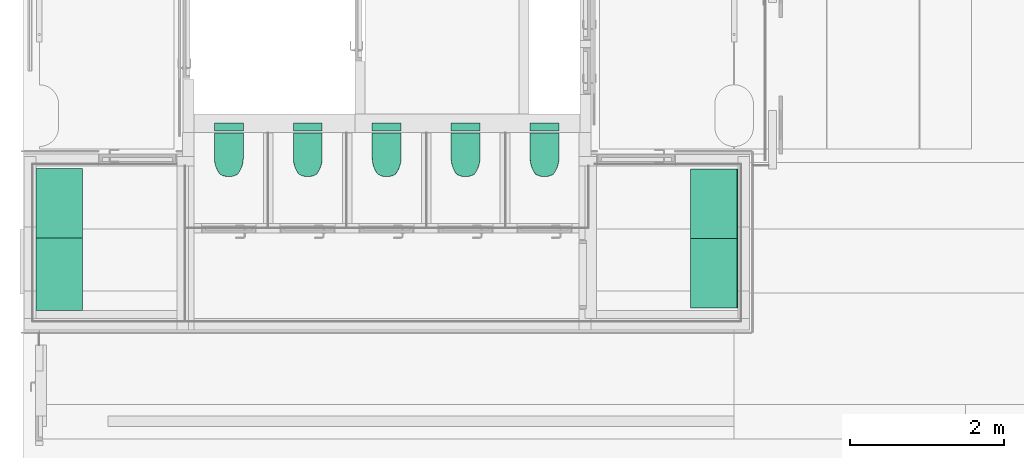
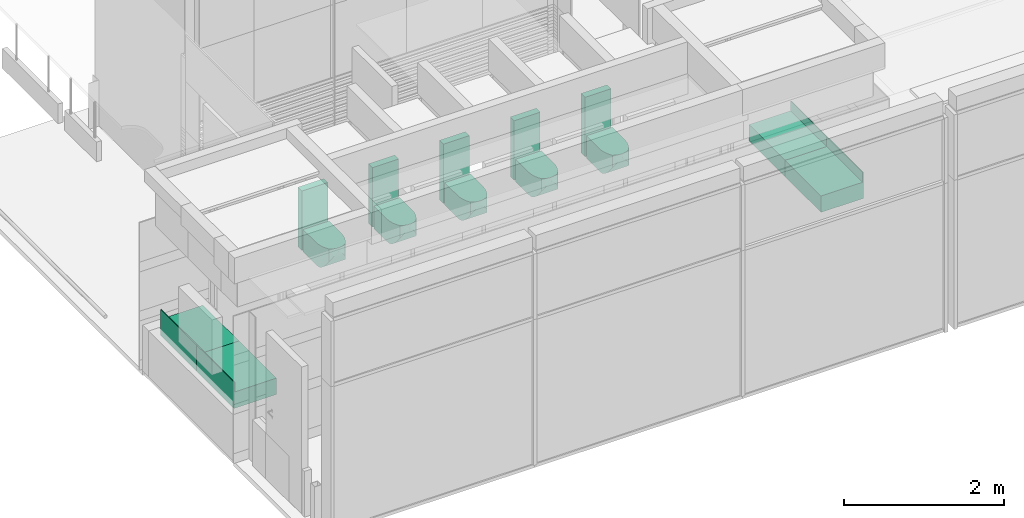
# One storey, part 23 of 26: 9 flow terminals.
"""IFC2X3 building model written with IfcOpenShell, lengths in millimetres."""

from ifc_helpers import new_model, entity, si_unit, converted_unit, derived_unit, direction, frame, origin, origin_with_axes, place, context, subcontext, project, spatial, polyline, outline, extrude, faceted_brep, source, transform, mapped, material, type_object, element, save


model = new_model("IFC2X3")

# Units and contexts
model_context = context("Model", 3, precision=0.01, world=frame((0.0, 4.29681676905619e-09, 0.0)), true_north=direction((4.01073788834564e-13, 1.0)))
plan_context = context("Plan", 3, precision=0.01, world=frame((0.0, 4.29681676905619e-09, 0.0)), true_north=direction((4.01073788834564e-13, 1.0)))
body_context = subcontext(model_context, "Body", "Model", "MODEL_VIEW")
ifc_project = project(units=[converted_unit("PLANEANGLEUNIT", "DEGREE", entity("IfcPositiveLengthMeasure", 0.0174532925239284), si_unit("PLANEANGLEUNIT", "RADIAN"), dimensions=[0, 0, 0, 0, 0, 0, 0]), si_unit("AREAUNIT", "SQUARE_METRE"), si_unit("LENGTHUNIT", "METRE", prefix="MILLI"), si_unit("MASSUNIT", "GRAM", prefix="KILO"), si_unit("POWERUNIT", "WATT"), si_unit("PRESSUREUNIT", "PASCAL", prefix="KILO"), si_unit("FORCEUNIT", "NEWTON", prefix="KILO"), si_unit("ELECTRICVOLTAGEUNIT", "VOLT"), si_unit("ELECTRICCURRENTUNIT", "AMPERE"), si_unit("THERMODYNAMICTEMPERATUREUNIT", "DEGREE_CELSIUS"), si_unit("TIMEUNIT", "SECOND"), si_unit("VOLUMEUNIT", "CUBIC_METRE"), derived_unit("LINEARVELOCITYUNIT", [(si_unit("LENGTHUNIT", "METRE"), 1), (si_unit("TIMEUNIT", "SECOND"), -1)]), derived_unit("VOLUMETRICFLOWRATEUNIT", [(si_unit("VOLUMEUNIT", "CUBIC_METRE"), 1), (si_unit("TIMEUNIT", "SECOND"), -1)]), derived_unit("THERMALTRANSMITTANCEUNIT", [(si_unit("POWERUNIT", "WATT"), 1), (si_unit("THERMODYNAMICTEMPERATUREUNIT", "KELVIN"), -1), (si_unit("AREAUNIT", "SQUARE_METRE"), -1)]), derived_unit("SOUNDPRESSUREUNIT", [(si_unit("PRESSUREUNIT", "PASCAL"), 1)])], contexts=[model_context, plan_context])

# Site, building, storey
site_placement = place(None, origin_with_axes())
site = spatial("IfcSite", under=ifc_project, at=site_placement, Name="ENGM", CompositionType="ELEMENT")
building_placement = place(site_placement, origin_with_axes())
building = spatial("IfcBuilding", under=site, at=building_placement, Name="TG", CompositionType="ELEMENT")
storey_placement = place(building_placement, frame((0.0, 0.0, 210200.0), z_axis=(0.0, 0.0, 1.0), x_axis=(1.0, 0.0, 0.0)))
storey = spatial("IfcBuildingStorey", under=building, at=storey_placement, Name="Nivå F - 0,7 m", CompositionType="ELEMENT", Elevation=210200.0)

# Flow terminals
ifc_material_1 = material(Name="<Unnamed>")
distribution_element_type_1 = type_object("IfcDistributionElementType", Name="A313 - WC vegghengt kompakt:A313 - WC vegghengt kompakt - 375 x 570 mm", material=ifc_material_1)
shared_shape_1 = source(origin(), body_context, "Body", "Brep", [
    faceted_brep([(312.499999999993, 446.249999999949, -209770.901735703), (312.499999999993, 126.249999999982, -209770.901735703), (312.499999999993, 126.249999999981, -210060.610758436), (312.499999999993, 446.249999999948, -210060.610758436), (-62.500000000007, 446.249999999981, -210060.610758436), (-62.5000000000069, 126.249999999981, -210060.610758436), (-62.5000000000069, 126.249999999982, -209770.901735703), (-62.500000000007, 446.249999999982, -209770.901735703), (-61.0943491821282, 477.277828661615, -210060.610758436), (-56.8889126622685, 508.051458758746, -210060.610758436), (307.076757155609, 508.051458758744, -210060.610758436), (311.141589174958, 477.26947721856, -210060.610758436), (-52.8772812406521, 526.943875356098, -210055.350885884), (303.208051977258, 526.922675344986, -210055.358283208), (-48.0331707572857, 544.836689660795, -210047.797871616), (298.538026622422, 544.80842740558, -210047.811978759), (-42.5714145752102, 561.488423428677, -210038.12685778), (293.274720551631, 561.464647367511, -210038.142748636), (-36.7347864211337, 576.706469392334, -210026.510033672), (287.654082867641, 576.693965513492, -210026.520883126), (-30.7897673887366, 590.323872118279, -210013.110758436), (281.935362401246, 590.323872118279, -210013.110758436), (-20.2670515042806, 611.177154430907, -209987.832507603), (272.546483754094, 609.829968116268, -209989.599315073), (-9.28211646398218, 629.802270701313, -209961.056072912), (262.770679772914, 627.411512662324, -209964.766564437), (243.381359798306, 656.667577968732, -209911.407360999), (1.75109092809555, 646.16872591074, -209932.861664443), (12.3855567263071, 660.22737274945, -209903.306790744), (232.842744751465, 662.991743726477, -209896.655951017), (23.0547052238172, 666.192766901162, -209888.497398), (252.933527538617, 643.038419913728, -209938.68341712), (222.072426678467, 668.665579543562, -209881.805469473), (33.943845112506, 671.512957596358, -209873.603078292), (211.089422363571, 673.6987026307, -209866.880923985), (56.3379345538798, 680.256118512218, -209843.662002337), (199.903177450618, 678.100588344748, -209851.908171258), (45.0396043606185, 676.197913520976, -209858.647894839), (67.8530091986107, 683.694986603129, -209828.686477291), (188.510716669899, 681.879332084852, -209836.920851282), (164.945566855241, 687.591624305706, -209807.150880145), (79.6356465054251, 686.520134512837, -209813.790888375), (91.8300745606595, 688.734037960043, -209799.124860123), (104.892464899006, 690.32880438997, -209785.143899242), (152.456744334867, 689.529224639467, -209792.697942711), (176.885252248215, 685.041515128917, -209821.970061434), (138.57668573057, 690.830506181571, -209779.511405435), (112.817655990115, 690.76879718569, -209779.825705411), (116.78025153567, 690.98879358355, -209777.166608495), (120.742847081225, 691.208789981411, -209774.507511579), (125.201306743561, 691.114219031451, -209775.758485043), (129.659766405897, 691.019648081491, -209777.009458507), (134.118226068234, 690.925077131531, -209778.260431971), (273.042360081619, 608.87184550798, -209770.901735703), (243.381359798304, 656.667577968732, -209770.901735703), (199.833567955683, 678.125792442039, -209770.901735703), (176.236160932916, 683.816018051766, -209770.901735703), (152.638753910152, 689.506243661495, -209770.901735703), (140.503305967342, 689.693258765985, -209770.901735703), (134.435581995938, 689.78676631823, -209770.901735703), (128.367858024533, 689.880273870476, -209770.901735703), (125.333996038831, 689.927027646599, -209770.901735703), (122.300134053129, 689.973781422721, -209770.901735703), (119.266272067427, 690.020535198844, -209770.901735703), (116.232410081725, 690.067288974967, -209770.901735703), (110.164686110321, 690.160796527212, -209770.901735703), (104.096962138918, 690.254304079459, -209770.901735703), (80.3354221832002, 685.293910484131, -209770.901735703), (56.5738822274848, 680.333516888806, -209770.901735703), (12.3855567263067, 660.227372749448, -209770.901735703), (-19.6706834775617, 612.260622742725, -209770.901735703), (-43.2379969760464, 559.601403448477, -209770.901735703), (-57.6502282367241, 503.738184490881, -209770.901735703), (308.041436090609, 502.324309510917, -209770.901735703), (294.777786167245, 556.989495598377, -209770.901735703), (12.3855567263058, 660.22737274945, -209838.581989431), (12.3855567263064, 660.22737274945, -209870.944390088), (243.381359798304, 656.667577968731, -209846.682564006), (243.381359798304, 656.667577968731, -209879.044962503)], [[[0, 1, 2, 3]], [[4, 5, 6, 7]], [[2, 1, 6, 5]], [[8, 9, 10, 11, 3, 2, 5, 4]], [[10, 9, 12]], [[13, 12, 14]], [[12, 13, 10]], [[13, 14, 15]], [[14, 16, 15]], [[17, 16, 18]], [[19, 18, 20]], [[18, 19, 17]], [[19, 20, 21]], [[16, 17, 15]], [[22, 23, 20]], [[24, 25, 22]], [[26, 27, 28]], [[29, 28, 30]], [[24, 27, 31]], [[32, 30, 33]], [[22, 25, 23]], [[23, 21, 20]], [[26, 28, 29]], [[31, 27, 26]], [[31, 25, 24]], [[30, 32, 29]], [[33, 34, 32]], [[35, 36, 37]], [[38, 39, 35]], [[40, 41, 42]], [[42, 43, 44]], [[38, 41, 45]], [[46, 43, 47, 48, 49, 50, 51, 52]], [[35, 39, 36]], [[36, 34, 37]], [[44, 40, 42]], [[45, 41, 40]], [[45, 39, 38]], [[46, 44, 43]], [[37, 34, 33]], [[53, 54, 55, 56, 57, 58, 59, 60, 61, 62, 63, 64, 65, 66, 67, 68, 69, 70, 71, 72, 7, 6, 1, 0, 73, 74]], [[8, 7, 72]], [[14, 71, 16]], [[71, 14, 72]], [[12, 72, 14]], [[4, 7, 8]], [[9, 8, 72]], [[12, 9, 72]], [[70, 27, 24]], [[27, 70, 28]], [[70, 69, 75, 76, 28]], [[71, 18, 16]], [[18, 71, 20]], [[22, 20, 71]], [[70, 24, 22]], [[70, 22, 71]], [[75, 68, 37]], [[42, 67, 66]], [[68, 67, 41]], [[47, 65, 64]], [[58, 57, 46, 59]], [[60, 51, 50]], [[66, 43, 42]], [[77, 78, 32]], [[69, 68, 75]], [[30, 76, 33]], [[63, 48, 64]], [[50, 62, 61, 60]], [[65, 43, 66]], [[41, 38, 68]], [[32, 78, 29]], [[75, 37, 33]], [[48, 63, 49]], [[37, 68, 35]], [[68, 38, 35]], [[64, 48, 47]], [[76, 75, 33]], [[46, 57, 44]], [[49, 62, 50]], [[57, 56, 44]], [[44, 56, 40]], [[40, 56, 45]], [[45, 56, 55]], [[55, 54, 77]], [[30, 28, 76]], [[49, 63, 62]], [[45, 55, 39]], [[39, 55, 36]], [[34, 36, 77]], [[51, 60, 59]], [[34, 77, 32]], [[55, 77, 36]], [[43, 65, 47]], [[26, 29, 78]], [[59, 46, 52, 51]], [[41, 67, 42]], [[53, 26, 78, 77, 54]], [[31, 53, 25]], [[53, 31, 26]], [[25, 53, 23]], [[74, 21, 23]], [[74, 19, 21]], [[74, 23, 53]], [[15, 17, 74]], [[74, 17, 19]], [[15, 74, 73]], [[11, 73, 0]], [[15, 73, 13]], [[73, 10, 13]], [[11, 10, 73]], [[0, 3, 11]]]),
    faceted_brep([(312.499999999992, 96.2499999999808, -209150.784104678), (-62.500000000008, 96.2499999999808, -209150.784104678), (-62.500000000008, -3.20424453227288, -209150.784104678), (312.499999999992, -3.20424453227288, -209150.784104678), (312.499999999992, 96.2499999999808, -210060.610758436), (312.499999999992, -3.20424453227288, -210060.610758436), (-62.500000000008, -3.20424453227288, -210060.610758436), (-62.500000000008, 96.2499999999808, -210060.610758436)], [[[0, 1, 2, 3]], [[4, 5, 6, 7]], [[1, 0, 4, 7]], [[2, 1, 7, 6]], [[3, 2, 6, 5]], [[0, 3, 5, 4]]]),
    faceted_brep([(-62.5000000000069, 126.249999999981, -209720.0), (312.499999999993, 126.249999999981, -209720.0), (312.499999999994, 446.249999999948, -209720.0), (308.041436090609, 502.324309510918, -209720.0), (294.777786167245, 556.989495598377, -209720.0), (273.042360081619, 608.871845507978, -209720.0), (243.381359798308, 656.667577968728, -209720.0), (199.833567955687, 678.125792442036, -209720.0), (152.638753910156, 689.506243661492, -209720.0), (104.096962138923, 690.254304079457, -209720.0), (56.5738822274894, 680.333516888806, -209720.0), (12.3855567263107, 660.227372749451, -209720.0), (-19.670683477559, 612.260622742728, -209720.0), (-43.2379969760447, 559.60140344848, -209720.0), (-57.6502282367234, 503.738184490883, -209720.0), (-62.5000000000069, 446.249999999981, -209720.0), (152.638753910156, 689.506243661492, -209770.901735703), (199.833567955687, 678.125792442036, -209770.901735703), (243.381359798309, 656.667577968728, -209770.901735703), (273.042360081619, 608.871845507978, -209770.901735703), (294.777786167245, 556.989495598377, -209770.901735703), (308.041436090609, 502.324309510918, -209770.901735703), (312.499999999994, 446.24999999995, -209770.901735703), (312.499999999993, 126.249999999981, -209770.901735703), (-62.5000000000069, 126.249999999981, -209770.901735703), (-62.5000000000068, 446.249999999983, -209770.901735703), (-57.6502282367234, 503.738184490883, -209770.901735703), (-43.2379969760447, 559.60140344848, -209770.901735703), (-19.670683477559, 612.260622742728, -209770.901735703), (12.3855567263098, 660.227372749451, -209770.901735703), (56.5738822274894, 680.333516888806, -209770.901735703), (104.096962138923, 690.254304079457, -209770.901735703)], [[[0, 1, 2, 3, 4, 5, 6, 7, 8, 9, 10, 11, 12, 13, 14, 15]], [[16, 17, 18, 19, 20, 21, 22, 23, 24, 25, 26, 27, 28, 29, 30, 31]], [[11, 29, 28, 12]], [[13, 12, 28, 27]], [[26, 25, 15, 14]], [[26, 14, 13, 27]], [[0, 15, 25, 24]], [[1, 0, 24, 23]], [[2, 1, 23, 22]], [[22, 21, 3, 2]], [[3, 21, 20, 4]], [[19, 18, 6, 5]], [[4, 20, 19, 5]], [[7, 6, 18, 17]], [[8, 7, 17, 16]], [[16, 31, 9, 8]], [[30, 29, 11, 10]], [[31, 30, 10, 9]]]),
])
for number, where, z_axis, x_axis in (
    (1, (325602.37499998, 462600.000000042, 210844.0), (0.0, 0.0, 1.0), (-1.0, 0.0, 0.0)),
    (2, (324580.37499998, 462600.000000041, 210844.0), (0.0, 0.0, 1.0), (-1.0, 0.0, 0.0)),
    (3, (326624.37499998, 462600.000000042, 210844.0), (0.0, 0.0, 1.0), (-1.0, 0.0, 0.0)),
    (4, (327646.374999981, 462600.000000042, 210844.0), (0.0, 0.0, 1.0), (-1.0, 0.0, 0.0)),
    (5, (328669.37499998, 462600.000000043, 210844.0), (0.0, 0.0, 1.0), (-1.0, 0.0, 0.0)),
):
    element("IfcFlowTerminal", number, at=place(storey_placement, frame(where, z_axis=z_axis, x_axis=x_axis)), inside=storey, type_object=distribution_element_type_1, material=ifc_material_1, Name="A313 - WC vegghengt kompakt:A313 - WC vegghengt kompakt - 375 x 570 mm", ObjectType="A313 - WC vegghengt kompakt:A313 - WC vegghengt kompakt - 375 x 570 mm", context=body_context, shape_type="MappedRepresentation", body=[
        mapped(shared_shape_1, transform((0.0, 0.0, 0.0), scale=1.0)),
    ])
ifc_material_2 = material(Name="NSW - våtrom silver")
distribution_element_type_2 = type_object("IfcDistributionElementType", Name="A313 - Vaskgruppe x1:A313 - Vaskgruppe - 850 x 600mm", material=ifc_material_2)
shared_shape_2 = source(origin(), body_context, "Body", "SweptSolid", [
    extrude(outline(polyline([(-404.0, 33.3333333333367), (-404.0, -216.666666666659), (208.0, -216.666666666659), (208.0, 183.333333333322), (196.0, 183.333333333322), (196.0, 33.3333333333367), (-404.0, 33.3333333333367)])), frame((-250.0, 283.0, 816.666666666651), z_axis=(-1.0, 0.0, 0.0), x_axis=(0.0, -1.0, 0.0)), (0.0, 0.0, -1.0), 900.0),
])
for number, where, z_axis, x_axis in (
    (6, (331124.0, 461357.600000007, 0.0), (0.0, 0.0, 1.0), (0.0, 1.0, 0.0)),
    (7, (331124.0, 460457.600000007, 0.0), (0.0, 0.0, 1.0), (0.0, 1.0, 0.0)),
    (8, (321869.750000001, 461762.650000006, 0.0), (0.0, 0.0, 1.0), (0.0, -1.0, 0.0)),
):
    element("IfcFlowTerminal", number, at=place(storey_placement, frame(where, z_axis=z_axis, x_axis=x_axis)), inside=storey, type_object=distribution_element_type_2, material=ifc_material_2, Name="A313 - Vaskgruppe x1:A313 - Vaskgruppe - 850 x 600mm", ObjectType="A313 - Vaskgruppe x1:A313 - Vaskgruppe - 850 x 600mm", context=body_context, shape_type="MappedRepresentation", body=[
        mapped(shared_shape_2, transform((0.0, 0.0, 0.0), scale=1.0)),
    ])
distribution_element_type_3 = type_object("IfcDistributionElementType", Name="A313 - Vaskgruppe x0:A313 - Vaskgruppe - b=600 mm", material=ifc_material_2)
shared_shape_3 = source(origin(), body_context, "Body", "SweptSolid", [
    extrude(outline(polyline([(-404.0, 33.3333333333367), (-404.0, -216.666666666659), (208.0, -216.666666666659), (208.0, 183.333333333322), (196.0, 183.333333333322), (196.0, 33.3333333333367), (-404.0, 33.3333333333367)])), frame((-268.492433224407, 283.0, 816.666666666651), z_axis=(-1.0, 0.0, 0.0), x_axis=(0.0, -1.0, 0.0)), (0.0, 0.0, -1.0), 936.9848664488),
])
flow_terminal_placement = place(storey_placement, frame((321869.75, 460844.157566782, 0.0), z_axis=(0.0, 0.0, 1.0), x_axis=(0.0, -1.0, 0.0)))
element("IfcFlowTerminal", 9, at=flow_terminal_placement, inside=storey, type_object=distribution_element_type_3, material=ifc_material_2, Name="A313 - Vaskgruppe x0:A313 - Vaskgruppe - b=600 mm", ObjectType="A313 - Vaskgruppe x0:A313 - Vaskgruppe - b=600 mm", context=body_context, shape_type="MappedRepresentation", body=[
    mapped(shared_shape_3, transform((0.0, 0.0, 0.0), scale=1.0)),
])

save(model, "model.ifc")
